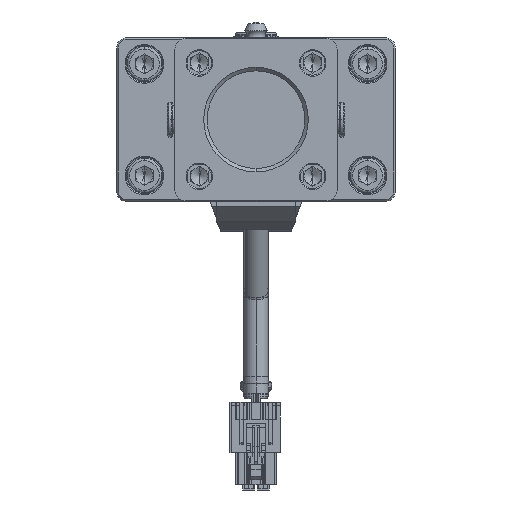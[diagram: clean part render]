
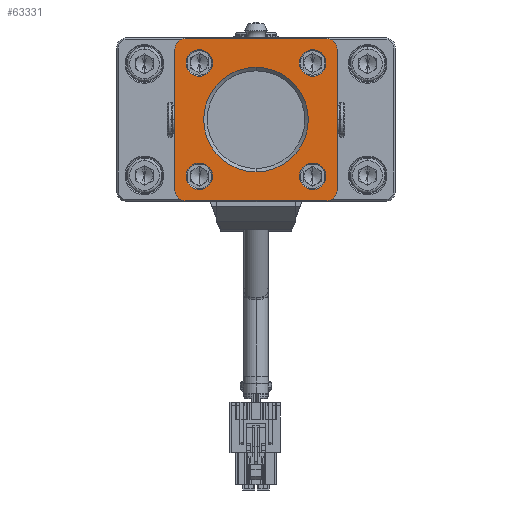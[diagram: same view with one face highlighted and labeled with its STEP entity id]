
A CAD part, front view. The second image highlights one B-rep face of the part: STEP entity #63331.
In plain terms, the highlighted planar face has unit normal (0, -1, 0).
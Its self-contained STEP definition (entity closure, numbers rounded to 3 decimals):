
#62386=CARTESIAN_POINT('',(20.25,-4.5,20.25));
#62387=DIRECTION('',(0.,-1.,0.));
#62388=DIRECTION('',(1.,0.,0.));
#62389=AXIS2_PLACEMENT_3D('',#62386,#62387,#62388);
#62391=DIRECTION('',(0.,0.,-1.));
#62392=VECTOR('',#62391,40.5);
#62393=CARTESIAN_POINT('',(23.25,-4.5,20.25));
#62394=LINE('',#62393,#62392);
#62395=CARTESIAN_POINT('',(20.25,-4.5,-20.25));
#62396=DIRECTION('',(0.,-1.,0.));
#62397=DIRECTION('',(0.,0.,-1.));
#62398=AXIS2_PLACEMENT_3D('',#62395,#62396,#62397);
#62400=DIRECTION('',(-1.,0.,0.));
#62401=VECTOR('',#62400,40.5);
#62402=CARTESIAN_POINT('',(20.25,-4.5,-23.25));
#62403=LINE('',#62402,#62401);
#62404=CARTESIAN_POINT('',(-20.25,-4.5,-20.25));
#62405=DIRECTION('',(0.,-1.,0.));
#62406=DIRECTION('',(-1.,0.,0.));
#62407=AXIS2_PLACEMENT_3D('',#62404,#62405,#62406);
#62409=DIRECTION('',(0.,0.,1.));
#62410=VECTOR('',#62409,40.5);
#62411=CARTESIAN_POINT('',(-23.25,-4.5,-20.25));
#62412=LINE('',#62411,#62410);
#62413=CARTESIAN_POINT('',(-20.25,-4.5,20.25));
#62414=DIRECTION('',(0.,-1.,0.));
#62415=DIRECTION('',(0.,0.,1.));
#62416=AXIS2_PLACEMENT_3D('',#62413,#62414,#62415);
#62418=DIRECTION('',(1.,0.,0.));
#62419=VECTOR('',#62418,40.5);
#62420=CARTESIAN_POINT('',(-20.25,-4.5,23.25));
#62421=LINE('',#62420,#62419);
#62422=CARTESIAN_POINT('',(16.25,-4.5,-16.25));
#62423=DIRECTION('',(0.,1.,0.));
#62424=DIRECTION('',(1.,0.,0.));
#62425=AXIS2_PLACEMENT_3D('',#62422,#62423,#62424);
#62427=CARTESIAN_POINT('',(16.25,-4.5,-16.25));
#62428=DIRECTION('',(0.,1.,0.));
#62429=DIRECTION('',(-1.,0.,0.));
#62430=AXIS2_PLACEMENT_3D('',#62427,#62428,#62429);
#62432=CARTESIAN_POINT('',(16.25,-4.5,16.25));
#62433=DIRECTION('',(0.,1.,0.));
#62434=DIRECTION('',(-1.,0.,0.));
#62435=AXIS2_PLACEMENT_3D('',#62432,#62433,#62434);
#62437=CARTESIAN_POINT('',(16.25,-4.5,16.25));
#62438=DIRECTION('',(0.,1.,0.));
#62439=DIRECTION('',(1.,0.,0.));
#62440=AXIS2_PLACEMENT_3D('',#62437,#62438,#62439);
#62442=CARTESIAN_POINT('',(-16.25,-4.5,16.25));
#62443=DIRECTION('',(0.,1.,0.));
#62444=DIRECTION('',(-1.,0.,0.));
#62445=AXIS2_PLACEMENT_3D('',#62442,#62443,#62444);
#62447=CARTESIAN_POINT('',(-16.25,-4.5,16.25));
#62448=DIRECTION('',(0.,1.,0.));
#62449=DIRECTION('',(1.,0.,0.));
#62450=AXIS2_PLACEMENT_3D('',#62447,#62448,#62449);
#62452=CARTESIAN_POINT('',(-16.25,-4.5,-16.25));
#62453=DIRECTION('',(0.,1.,0.));
#62454=DIRECTION('',(1.,0.,0.));
#62455=AXIS2_PLACEMENT_3D('',#62452,#62453,#62454);
#62457=CARTESIAN_POINT('',(-16.25,-4.5,-16.25));
#62458=DIRECTION('',(0.,1.,0.));
#62459=DIRECTION('',(-1.,0.,0.));
#62460=AXIS2_PLACEMENT_3D('',#62457,#62458,#62459);
#62462=CARTESIAN_POINT('',(0.,-4.5,0.));
#62463=DIRECTION('',(0.,1.,0.));
#62464=DIRECTION('',(0.,0.,1.));
#62465=AXIS2_PLACEMENT_3D('',#62462,#62463,#62464);
#62467=CARTESIAN_POINT('',(0.,-4.5,0.));
#62468=DIRECTION('',(0.,1.,0.));
#62469=DIRECTION('',(0.,0.,-1.));
#62470=AXIS2_PLACEMENT_3D('',#62467,#62468,#62469);
#63122=CARTESIAN_POINT('',(23.25,-4.5,20.25));
#63123=CARTESIAN_POINT('',(20.25,-4.5,23.25));
#63124=VERTEX_POINT('',#63122);
#63125=VERTEX_POINT('',#63123);
#63130=CARTESIAN_POINT('',(-20.25,-4.5,23.25));
#63131=CARTESIAN_POINT('',(-23.25,-4.5,20.25));
#63132=VERTEX_POINT('',#63130);
#63133=VERTEX_POINT('',#63131);
#63138=CARTESIAN_POINT('',(20.25,-4.5,-23.25));
#63139=CARTESIAN_POINT('',(23.25,-4.5,-20.25));
#63140=VERTEX_POINT('',#63138);
#63141=VERTEX_POINT('',#63139);
#63146=CARTESIAN_POINT('',(-23.25,-4.5,-20.25));
#63147=CARTESIAN_POINT('',(-20.25,-4.5,-23.25));
#63148=VERTEX_POINT('',#63146);
#63149=VERTEX_POINT('',#63147);
#63170=CARTESIAN_POINT('',(20.05,-4.5,-16.25));
#63171=CARTESIAN_POINT('',(12.45,-4.5,-16.25));
#63172=VERTEX_POINT('',#63170);
#63173=VERTEX_POINT('',#63171);
#63178=CARTESIAN_POINT('',(12.45,-4.5,16.25));
#63179=CARTESIAN_POINT('',(20.05,-4.5,16.25));
#63180=VERTEX_POINT('',#63178);
#63181=VERTEX_POINT('',#63179);
#63186=CARTESIAN_POINT('',(-20.05,-4.5,16.25));
#63187=CARTESIAN_POINT('',(-12.45,-4.5,16.25));
#63188=VERTEX_POINT('',#63186);
#63189=VERTEX_POINT('',#63187);
#63194=CARTESIAN_POINT('',(-12.45,-4.5,-16.25));
#63195=CARTESIAN_POINT('',(-20.05,-4.5,-16.25));
#63196=VERTEX_POINT('',#63194);
#63197=VERTEX_POINT('',#63195);
#63270=CARTESIAN_POINT('',(0.,-4.5,15.));
#63271=CARTESIAN_POINT('',(0.,-4.5,-15.));
#63272=VERTEX_POINT('',#63270);
#63273=VERTEX_POINT('',#63271);
#63278=CARTESIAN_POINT('',(0.,-4.5,0.));
#63279=DIRECTION('',(0.,1.,0.));
#63280=DIRECTION('',(1.,0.,0.));
#63281=AXIS2_PLACEMENT_3D('',#63278,#63279,#63280);
#63282=PLANE('',#63281);
#63284=ORIENTED_EDGE('',*,*,#63283,.F.);
#63286=ORIENTED_EDGE('',*,*,#63285,.T.);
#63288=ORIENTED_EDGE('',*,*,#63287,.F.);
#63290=ORIENTED_EDGE('',*,*,#63289,.T.);
#63292=ORIENTED_EDGE('',*,*,#63291,.F.);
#63294=ORIENTED_EDGE('',*,*,#63293,.T.);
#63296=ORIENTED_EDGE('',*,*,#63295,.F.);
#63298=ORIENTED_EDGE('',*,*,#63297,.T.);
#63299=EDGE_LOOP('',(#63284,#63286,#63288,#63290,#63292,#63294,#63296,#63298));
#63300=FACE_OUTER_BOUND('',#63299,.F.);
#63302=ORIENTED_EDGE('',*,*,#63301,.F.);
#63304=ORIENTED_EDGE('',*,*,#63303,.F.);
#63305=EDGE_LOOP('',(#63302,#63304));
#63306=FACE_BOUND('',#63305,.F.);
#63308=ORIENTED_EDGE('',*,*,#63307,.F.);
#63310=ORIENTED_EDGE('',*,*,#63309,.F.);
#63311=EDGE_LOOP('',(#63308,#63310));
#63312=FACE_BOUND('',#63311,.F.);
#63314=ORIENTED_EDGE('',*,*,#63313,.F.);
#63316=ORIENTED_EDGE('',*,*,#63315,.F.);
#63317=EDGE_LOOP('',(#63314,#63316));
#63318=FACE_BOUND('',#63317,.F.);
#63320=ORIENTED_EDGE('',*,*,#63319,.F.);
#63322=ORIENTED_EDGE('',*,*,#63321,.F.);
#63323=EDGE_LOOP('',(#63320,#63322));
#63324=FACE_BOUND('',#63323,.F.);
#63326=ORIENTED_EDGE('',*,*,#63325,.F.);
#63328=ORIENTED_EDGE('',*,*,#63327,.F.);
#63329=EDGE_LOOP('',(#63326,#63328));
#63330=FACE_BOUND('',#63329,.F.);
#63331=ADVANCED_FACE('',(#63300,#63306,#63312,#63318,#63324,#63330),#63282,.F.);
#62390=CIRCLE('',#62389,3.);
#62399=CIRCLE('',#62398,3.);
#62408=CIRCLE('',#62407,3.);
#62417=CIRCLE('',#62416,3.);
#62426=CIRCLE('',#62425,3.8);
#62431=CIRCLE('',#62430,3.8);
#62436=CIRCLE('',#62435,3.8);
#62441=CIRCLE('',#62440,3.8);
#62446=CIRCLE('',#62445,3.8);
#62451=CIRCLE('',#62450,3.8);
#62456=CIRCLE('',#62455,3.8);
#62461=CIRCLE('',#62460,3.8);
#62466=CIRCLE('',#62465,15.);
#62471=CIRCLE('',#62470,15.);
#63283=EDGE_CURVE('',#63124,#63125,#62390,.T.);
#63285=EDGE_CURVE('',#63124,#63141,#62394,.T.);
#63287=EDGE_CURVE('',#63140,#63141,#62399,.T.);
#63289=EDGE_CURVE('',#63140,#63149,#62403,.T.);
#63291=EDGE_CURVE('',#63148,#63149,#62408,.T.);
#63293=EDGE_CURVE('',#63148,#63133,#62412,.T.);
#63295=EDGE_CURVE('',#63132,#63133,#62417,.T.);
#63297=EDGE_CURVE('',#63132,#63125,#62421,.T.);
#63301=EDGE_CURVE('',#63172,#63173,#62426,.T.);
#63303=EDGE_CURVE('',#63173,#63172,#62431,.T.);
#63307=EDGE_CURVE('',#63180,#63181,#62436,.T.);
#63309=EDGE_CURVE('',#63181,#63180,#62441,.T.);
#63313=EDGE_CURVE('',#63188,#63189,#62446,.T.);
#63315=EDGE_CURVE('',#63189,#63188,#62451,.T.);
#63319=EDGE_CURVE('',#63196,#63197,#62456,.T.);
#63321=EDGE_CURVE('',#63197,#63196,#62461,.T.);
#63325=EDGE_CURVE('',#63272,#63273,#62466,.T.);
#63327=EDGE_CURVE('',#63273,#63272,#62471,.T.);
